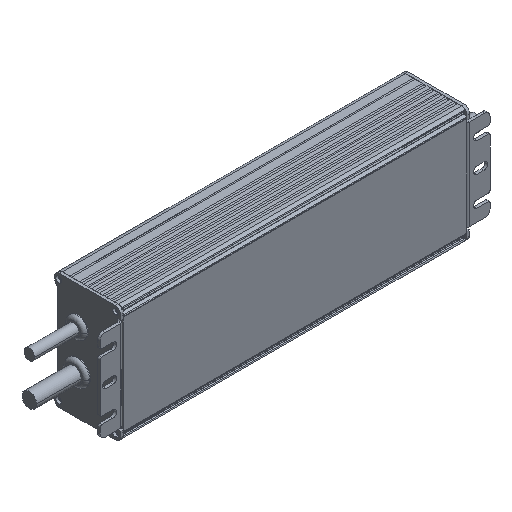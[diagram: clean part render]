
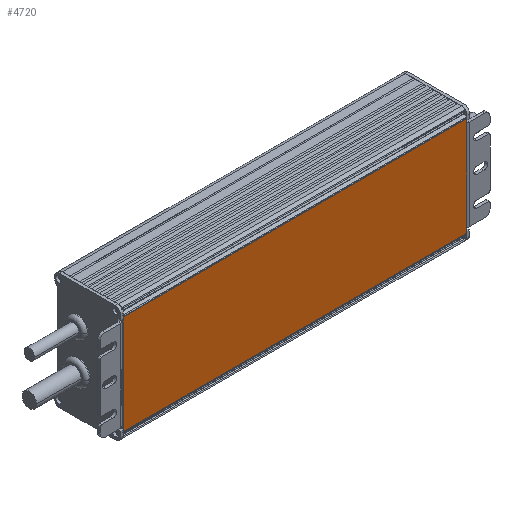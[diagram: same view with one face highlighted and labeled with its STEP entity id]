
A CAD part, isometric view. The second image highlights one B-rep face of the part: STEP entity #4720.
In plain terms, the highlighted planar face has unit normal (0, -1, 0).
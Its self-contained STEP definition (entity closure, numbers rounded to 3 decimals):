
#268=DIRECTION('',(0.,0.,-1.));
#269=VECTOR('',#268,58.);
#270=CARTESIAN_POINT('',(0.,0.,-5.));
#271=LINE('',#270,#269);
#1074=DIRECTION('',(0.,0.,-1.));
#1075=VECTOR('',#1074,58.);
#1076=CARTESIAN_POINT('',(200.8,0.,-5.));
#1077=LINE('',#1076,#1075);
#1579=DIRECTION('',(1.,0.,0.));
#1580=VECTOR('',#1579,200.8);
#1581=CARTESIAN_POINT('',(0.,0.,-63.));
#1582=LINE('',#1581,#1580);
#1583=DIRECTION('',(1.,0.,0.));
#1584=VECTOR('',#1583,200.8);
#1585=CARTESIAN_POINT('',(0.,0.,-5.));
#1586=LINE('',#1585,#1584);
#1931=CARTESIAN_POINT('',(0.,0.,-5.));
#1932=VERTEX_POINT('',#1931);
#1933=CARTESIAN_POINT('',(0.,0.,-63.));
#1934=VERTEX_POINT('',#1933);
#2189=CARTESIAN_POINT('',(200.8,0.,-5.));
#2190=VERTEX_POINT('',#2189);
#2191=CARTESIAN_POINT('',(200.8,0.,-63.));
#2192=VERTEX_POINT('',#2191);
#4708=CARTESIAN_POINT('',(0.,0.,-5.));
#4709=DIRECTION('',(0.,-1.,0.));
#4710=DIRECTION('',(0.,0.,-1.));
#4711=AXIS2_PLACEMENT_3D('',#4708,#4709,#4710);
#4712=PLANE('',#4711);
#4713=ORIENTED_EDGE('',*,*,#2500,.F.);
#4715=ORIENTED_EDGE('',*,*,#4714,.T.);
#4716=ORIENTED_EDGE('',*,*,#3282,.T.);
#4717=ORIENTED_EDGE('',*,*,#4694,.F.);
#4718=EDGE_LOOP('',(#4713,#4715,#4716,#4717));
#4719=FACE_OUTER_BOUND('',#4718,.F.);
#2500=EDGE_CURVE('',#1932,#1934,#271,.T.);
#3282=EDGE_CURVE('',#2190,#2192,#1077,.T.);
#4694=EDGE_CURVE('',#1934,#2192,#1582,.T.);
#4714=EDGE_CURVE('',#1932,#2190,#1586,.T.);
#4720=ADVANCED_FACE('',(#4719),#4712,.T.);
